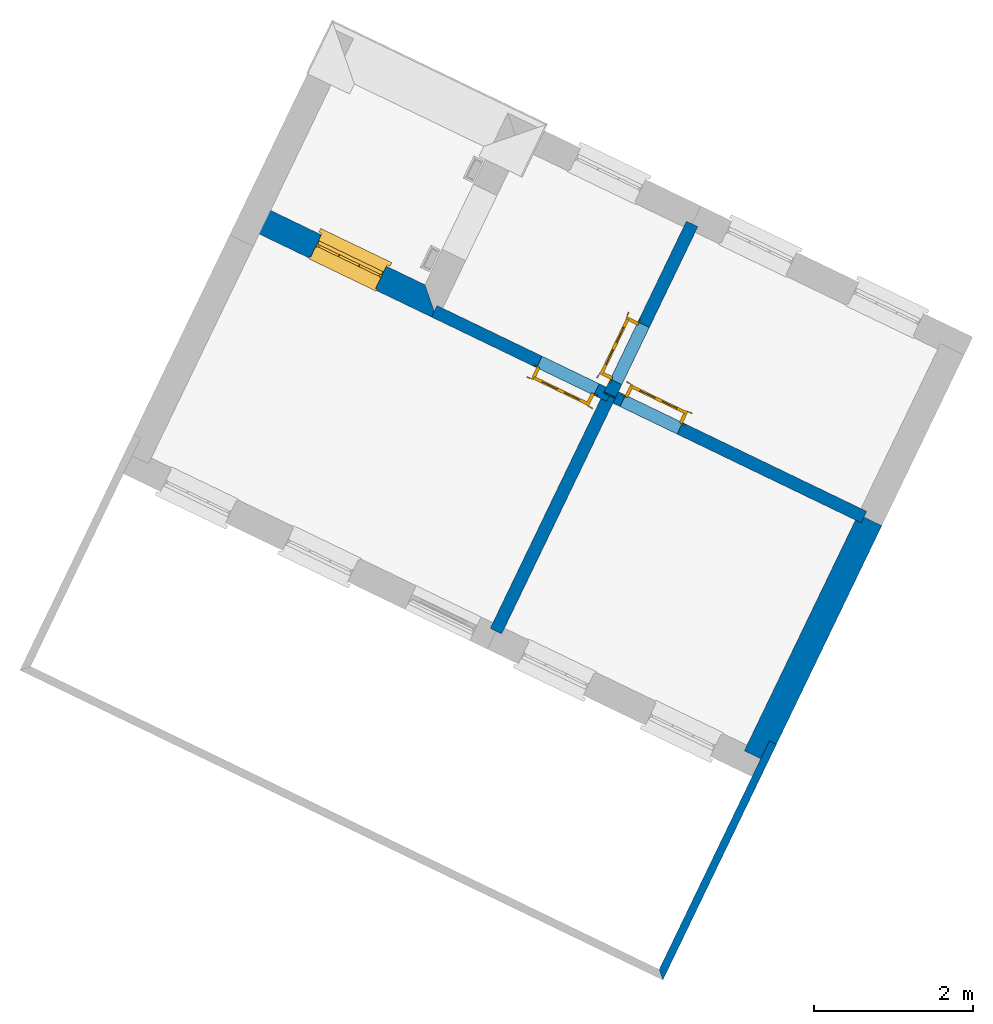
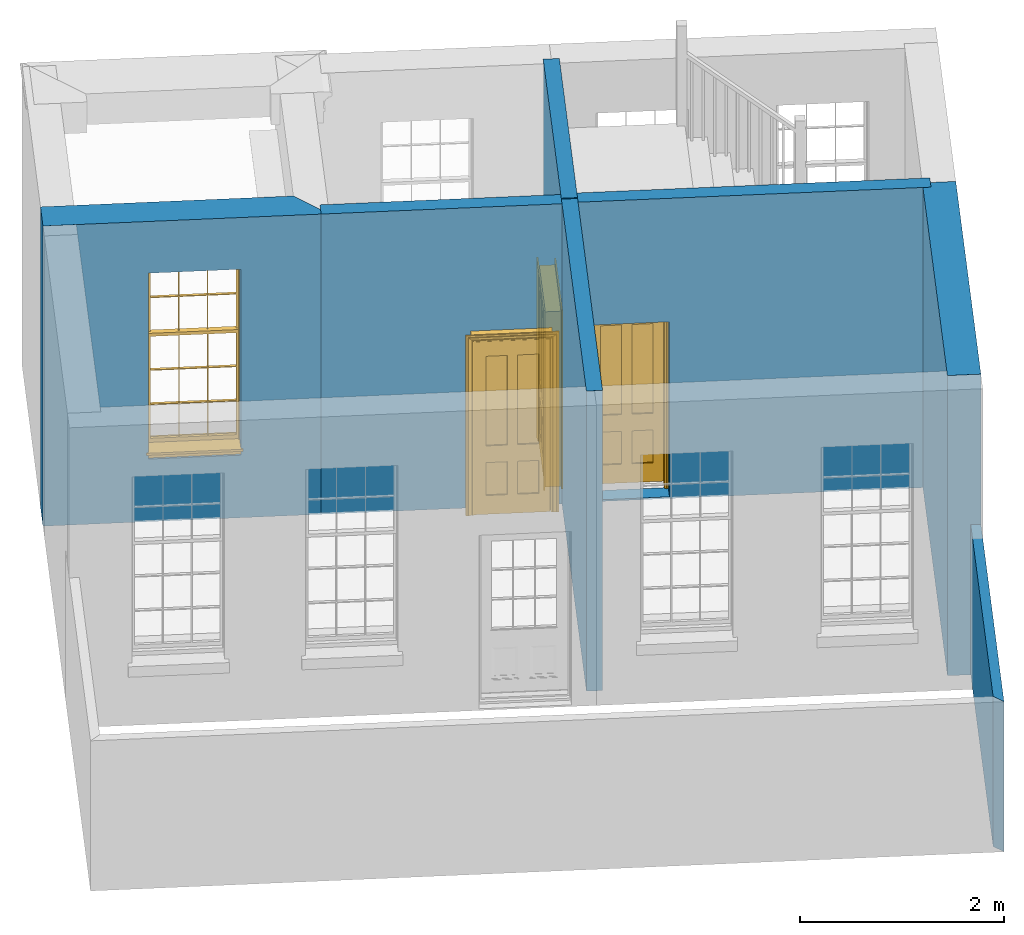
# One storey, part 3 of 6: 8 walls, 3 doors, 1 window, 4 openings.
"""IFC4 building model written with IfcOpenShell, lengths in metres."""

from ifc_helpers import new_model, si_unit, frame, origin, origin_with_axes, place, context, subcontext, project, spatial, polyline, outline, extrude, faceted_brep, source, transform, mapped, material, layer, layer_set, layer_usage, type_object, type_shapes, element, fill, save


model = new_model("IFC4")

# Units and contexts
model_context = context("Model", 3, world=origin_with_axes())
body_context = subcontext(model_context, "Body", "Model", "MODEL_VIEW")
ifc_project = project(units=[si_unit("PLANEANGLEUNIT", "RADIAN"), si_unit("MASSUNIT", "GRAM", prefix="KILO"), si_unit("FORCEUNIT", "NEWTON", prefix="KILO"), si_unit("LENGTHUNIT", "METRE"), si_unit("AREAUNIT", "SQUARE_METRE"), si_unit("VOLUMEUNIT", "CUBIC_METRE")], contexts=[model_context, model_context])

# Sites, building, storey
site_1_placement = place(None, origin_with_axes())
site_1 = spatial("IfcSite", under=ifc_project, at=site_1_placement, Name="Tamar")
site_2_placement = place(site_1_placement, origin_with_axes())
site_2 = spatial("IfcSite", under=site_1, at=site_2_placement, Name="Site plot-1", CompositionType="ELEMENT")
building_placement = place(None, origin_with_axes())
building = spatial("IfcBuilding", under=site_2, at=building_placement, Name="Building plot-1", CompositionType="ELEMENT")
storey_placement = place(None, frame((0.0, 0.0, 26.0), z_axis=(0.0, 0.0, 1.0), x_axis=(1.0, 0.0, 0.0)))
storey = spatial("IfcBuildingStorey", under=building, at=storey_placement, Name="plot-1 0", CompositionType="ELEMENT", Elevation=26.0)

# Wall, opening, window
ifc_material_1 = material(Name="Masonry")
ifc_layer_1 = layer(ifc_material_1, 0.33, ventilated=False)
ifc_layer_set_1 = layer_set([ifc_layer_1], Name="exterior_0.08_0.25")
ifc_layer_usage_1 = layer_usage(ifc_layer_set_1, "AXIS2", "POSITIVE", -0.25)
wall_type_1 = type_object("IfcWallType", Name="exterior_0.08_0.25", PredefinedType="SOLIDWALL", material=ifc_layer_set_1)
wall_1_placement = place(storey_placement, frame((223.048776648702, 296.615213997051, 0.0), z_axis=(0.0, 0.0, 1.0), x_axis=(-0.900856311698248, 0.43411738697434, 0.0)))
wall_1 = element("IfcWall", 1, at=wall_1_placement, inside=storey, type_object=wall_type_1, material=ifc_layer_usage_1, Name="exterior", context=body_context, shape_type="SweptSolid", body=[
    extrude(outline(polyline([(-0.0799999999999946, 0.080000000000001), (0.249999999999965, -0.249999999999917), (2.74084182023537, -0.249999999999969), (2.74084182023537, 0.0800000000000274), (-0.0799999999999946, 0.080000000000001)])), origin_with_axes(), (0.0, 0.0, 1.0), 3.6),
])
opening_1_placement = place(wall_1_placement, frame((0.790420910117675, 0.0, 0.75)))
opening_1 = element("IfcOpeningElement", 2, at=opening_1_placement, cuts=wall_1, Name="My Opening", ObjectType="Opening", context=body_context, shape_type="SweptSolid", body=[
    extrude(outline(polyline([(0.0, -0.269999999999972), (0.910000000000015, -0.270000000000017), (0.910000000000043, 1.09999999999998), (2.85327317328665e-14, 1.10000000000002), (0.0, -0.269999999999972)])), origin_with_axes(), (0.0, 0.0, 1.0), 2.23),
])
window_type = type_object("IfcWindowType", Name="sash_big_taller", PartitioningType="DOUBLE_PANEL_HORIZONTAL", PredefinedType="NOTDEFINED")
shared_shape_1 = source(origin(), body_context, "Body", "Brep", [
    faceted_brep([(0.033125, 0.145, 1.385209), (0.01, 0.145, 1.385209), (0.033125, 0.145, 1.786042), (0.876875, 0.145, 1.385209), (0.876875, 0.145, 1.786042), (0.9, 0.145, 1.385209), (0.876875, 0.145, 1.796042), (0.876875, 0.145, 2.196875), (0.9, 0.145, 2.22), (0.033125, 0.145, 2.196875), (0.033125, 0.145, 1.796042), (0.01, 0.145, 2.22), (0.876875, 0.115, 1.786042), (0.876875, 0.115, 1.385209), (0.9, 0.115, 1.347084), (0.033125, 0.115, 2.196875), (0.01, 0.115, 2.22), (0.033125, 0.115, 1.796042), (0.01, 0.115, 1.347084), (0.033125, 0.115, 1.385209), (0.033125, 0.115, 1.786042), (0.876875, 0.115, 2.196875), (0.876875, 0.115, 1.796042), (0.9, 0.115, 2.22), (0.033125, 0.145, 1.347084), (0.01, 0.145, 1.347084), (0.033125, 0.145, 0.94625), (0.876875, 0.145, 1.347084), (0.876875, 0.145, 0.94625), (0.9, 0.145, 1.347084), (0.876875, 0.145, 0.52625), (0.876875, 0.145, 0.125417), (0.9, 0.145, 0.077167), (0.033125, 0.145, 0.125417), (0.033125, 0.145, 0.52625), (0.01, 0.145, 0.077167), (-0.0425, 0.0, 0.01), (-0.0425, -0.05, 0.001667), (0.0, 0.0, 0.01), (0.9525, 0.0, 0.01), (0.91, 0.0, 0.01), (0.9525, -0.05, 0.001667), (-0.02, 0.33, 0.077167), (0.0, 0.33, 0.077167), (-0.02, 0.36, 0.077167), (0.0, 0.19, 0.077167), (0.01, 0.19, 0.077167), (0.91, 0.19, 0.077167), (0.91, 0.33, 0.077167), (0.9, 0.19, 0.077167), (0.93, 0.33, 0.077167), (0.93, 0.36, 0.077167), (0.01, 0.175, 1.385209), (0.9, 0.175, 1.385209), (0.876875, 0.175, 0.125417), (0.876875, 0.175, 0.52625), (0.9, 0.175, 0.077167), (0.876875, 0.175, 0.94625), (0.876875, 0.175, 1.347084), (0.033125, 0.175, 0.125417), (0.01, 0.175, 0.077167), (0.033125, 0.175, 0.52625), (0.033125, 0.175, 1.347084), (0.033125, 0.175, 0.94625), (-0.02, 0.33, 0.052167), (-0.02, 0.36, 0.052167), (0.93, 0.36, 0.052167), (0.93, 0.33, 0.052167), (0.91, 0.33, 0.052167), (0.0, 0.33, 0.052167), (0.91, 0.1, 0.026667), (0.0, 0.1, 0.026667), (-0.0425, -0.05, -0.123333), (0.9525, -0.05, -0.123333), (-0.0425, 0.0, -0.123333), (0.9525, 0.0, -0.123333), (0.01, 0.19, 2.22), (0.9, 0.19, 2.22), (0.0, 0.19, 2.23), (0.91, 0.19, 2.23), (0.01, 0.1, 0.077167), (0.9, 0.1, 0.077167), (0.592292, 0.145, 0.125417), (0.592292, 0.175, 0.125417), (0.317708, 0.175, 0.125417), (0.317708, 0.145, 0.125417), (0.592292, 0.145, 0.53625), (0.317708, 0.145, 0.53625), (0.317708, 0.145, 0.52625), (0.592292, 0.145, 0.52625), (0.592292, 0.175, 0.53625), (0.317708, 0.175, 0.53625), (0.592292, 0.115, 1.796042), (0.592292, 0.145, 1.796042), (0.317708, 0.145, 1.796042), (0.317708, 0.115, 1.796042), (0.317708, 0.115, 1.786042), (0.592292, 0.115, 1.786042), (0.317708, 0.145, 1.786042), (0.592292, 0.145, 1.786042), (0.602292, 0.115, 1.786042), (0.592292, 0.115, 1.385209), (0.602292, 0.115, 1.385209), (0.602292, 0.145, 1.385209), (0.592292, 0.145, 1.385209), (0.602292, 0.145, 1.786042), (0.876875, 0.145, 0.53625), (0.876875, 0.175, 0.53625), (0.602292, 0.175, 0.53625), (0.602292, 0.145, 0.53625), (0.317708, 0.175, 0.52625), (0.307708, 0.175, 0.125417), (0.307708, 0.175, 0.52625), (0.602292, 0.175, 0.52625), (0.602292, 0.175, 0.125417), (0.592292, 0.175, 0.52625), (0.307708, 0.175, 0.53625), (0.033125, 0.175, 0.53625), (0.317708, 0.175, 1.347084), (0.317708, 0.175, 0.94625), (0.307708, 0.175, 0.94625), (0.307708, 0.175, 1.347084), (0.602292, 0.175, 1.347084), (0.602292, 0.175, 0.94625), (0.592292, 0.175, 0.94625), (0.592292, 0.175, 1.347084), (0.307708, 0.145, 0.52625), (0.307708, 0.145, 0.125417), (0.307708, 0.145, 0.53625), (0.033125, 0.145, 0.53625), (0.307708, 0.145, 1.347084), (0.307708, 0.145, 0.94625), (0.592292, 0.145, 1.347084), (0.592292, 0.145, 0.94625), (0.317708, 0.145, 0.94625), (0.317708, 0.145, 1.347084), (0.602292, 0.145, 0.94625), (0.602292, 0.145, 1.347084), (0.602292, 0.145, 0.52625), (0.602292, 0.145, 0.125417), (0.307708, 0.115, 1.796042), (0.307708, 0.115, 1.786042), (0.307708, 0.115, 1.385209), (0.317708, 0.115, 1.385209), (0.317708, 0.115, 2.196875), (0.307708, 0.115, 2.196875), (0.602292, 0.115, 2.196875), (0.592292, 0.115, 2.196875), (0.602292, 0.115, 1.796042), (0.602292, 0.145, 1.796042), (0.307708, 0.145, 1.796042), (0.307708, 0.145, 2.196875), (0.317708, 0.145, 2.196875), (0.592292, 0.145, 2.196875), (0.602292, 0.145, 2.196875), (0.307708, 0.145, 1.786042), (0.317708, 0.145, 1.385209), (0.307708, 0.145, 1.385209), (0.876875, 0.175, 0.93625), (0.033125, 0.175, 0.93625), (0.033125, 0.145, 0.93625), (0.876875, 0.145, 0.93625), (0.91, 0.1, 2.23), (0.9, 0.1, 2.22), (0.01, 0.1, 2.22), (0.0, 0.1, 2.23), (0.91, 0.0, 0.0), (0.0, 0.0, 0.0), (0.91, 0.33, 0.0), (0.0, 0.33, 0.0), (0.317708, 0.145, 0.93625), (0.592292, 0.145, 0.93625), (0.317708, 0.175, 0.93625), (0.307708, 0.175, 0.93625), (0.602292, 0.175, 0.93625), (0.592292, 0.175, 0.93625), (0.307708, 0.145, 0.93625), (0.602292, 0.145, 0.93625)], [[[0, 1, 2]], [[3, 4, 5]], [[6, 7, 8]], [[9, 10, 11]], [[12, 13, 14]], [[15, 16, 17]], [[18, 19, 20]], [[21, 22, 23]], [[24, 25, 26]], [[27, 28, 29]], [[30, 31, 32]], [[33, 34, 35]], [[14, 27, 29]], [[25, 24, 18]], [[36, 37, 38]], [[39, 40, 41]], [[42, 43, 44]], [[45, 46, 43]], [[47, 48, 49]], [[50, 51, 48]], [[1, 0, 52]], [[5, 53, 3]], [[54, 55, 56]], [[57, 58, 53]], [[59, 60, 61]], [[62, 63, 52]], [[48, 43, 46, 49]], [[51, 44, 43, 48]], [[64, 42, 44, 65]], [[65, 44, 51, 66]], [[66, 51, 50, 67]], [[65, 66, 68, 69]], [[60, 56, 49, 46]], [[70, 71, 38, 40]], [[37, 41, 40, 38]], [[37, 72, 73, 41]], [[74, 75, 73, 72]], [[8, 11, 76, 77]], [[76, 78, 79, 77]], [[32, 35, 80, 81]], [[81, 80, 71, 70]], [[82, 83, 84, 85]], [[86, 87, 88, 89]], [[86, 90, 91, 87]], [[92, 93, 94, 95]], [[92, 95, 96, 97]], [[96, 98, 99, 97]], [[100, 97, 101, 102]], [[103, 104, 99, 105]], [[97, 99, 104, 101]], [[102, 103, 105, 100]], [[106, 107, 108, 109]], [[110, 84, 111, 112]], [[113, 114, 83, 115]], [[116, 112, 61, 117]], [[90, 115, 110, 91]], [[118, 119, 120, 121]], [[122, 123, 124, 125]], [[113, 108, 107, 55]], [[126, 112, 111, 127]], [[34, 61, 112, 126]], [[89, 115, 83, 82]], [[88, 110, 115, 89]], [[85, 84, 110, 88]], [[128, 116, 117, 129]], [[130, 121, 120, 131]], [[132, 125, 124, 133]], [[134, 119, 118, 135]], [[136, 123, 122, 137]], [[138, 113, 55, 30]], [[139, 114, 113, 138]], [[138, 30, 106, 109]], [[88, 126, 127, 85]], [[138, 89, 82, 139]], [[137, 132, 133, 136]], [[128, 129, 34, 126]], [[135, 130, 131, 134]], [[140, 17, 20, 141]], [[96, 141, 142, 143]], [[144, 145, 140, 95]], [[146, 147, 92, 148]], [[100, 12, 22, 148]], [[149, 6, 4, 105]], [[94, 150, 151, 152]], [[149, 93, 153, 154]], [[99, 98, 94, 93]], [[155, 2, 10, 150]], [[156, 157, 155, 98]], [[141, 155, 157, 142]], [[20, 2, 155, 141]], [[143, 156, 98, 96]], [[140, 150, 10, 17]], [[145, 151, 150, 140]], [[147, 153, 93, 92]], [[95, 94, 152, 144]], [[22, 6, 149, 148]], [[148, 149, 154, 146]], [[100, 105, 4, 12]], [[109, 86, 89, 138]], [[108, 113, 115, 90]], [[91, 110, 112, 116]], [[87, 128, 126, 88]], [[97, 100, 148, 92]], [[141, 96, 95, 140]], [[98, 155, 150, 94]], [[105, 99, 93, 149]], [[143, 101, 104, 156]], [[135, 118, 125, 132]], [[144, 152, 153, 147]], [[127, 111, 59, 33]], [[15, 9, 151, 145]], [[146, 154, 7, 21]], [[31, 54, 114, 139]], [[36, 74, 72, 37]], [[39, 41, 73, 75]], [[18, 14, 101, 143]], [[23, 16, 144, 147]], [[83, 56, 60, 84]], [[52, 53, 125, 118]], [[53, 52, 156, 104]], [[11, 8, 153, 152]], [[14, 18, 135, 132]], [[2, 1, 11, 10]], [[8, 5, 4, 6]], [[57, 53, 56, 158]], [[60, 52, 63, 159]], [[26, 25, 35, 160]], [[32, 29, 28, 161]], [[14, 23, 22, 12]], [[18, 20, 17, 16]], [[19, 0, 2, 20]], [[17, 10, 9, 15]], [[12, 4, 3, 13]], [[21, 7, 6, 22]], [[27, 58, 57, 28]], [[30, 55, 54, 31]], [[33, 59, 61, 34]], [[26, 63, 62, 24]], [[5, 8, 77, 53]], [[76, 11, 1, 52]], [[46, 45, 78, 76]], [[49, 77, 79, 47]], [[70, 162, 163, 81]], [[71, 80, 164, 165]], [[19, 142, 157, 0]], [[102, 13, 3, 103]], [[121, 130, 24, 62]], [[29, 32, 81, 14]], [[80, 35, 25, 18]], [[60, 46, 76, 52]], [[77, 49, 56, 53]], [[23, 14, 81, 163]], [[16, 164, 80, 18]], [[35, 85, 127]], [[127, 33, 35]], [[139, 82, 32]], [[32, 31, 139]], [[32, 82, 85, 35]], [[102, 101, 14]], [[14, 13, 102]], [[18, 143, 142]], [[142, 19, 18]], [[146, 21, 23]], [[23, 147, 146]], [[16, 15, 145]], [[145, 144, 16]], [[11, 152, 151]], [[151, 9, 11]], [[154, 153, 8]], [[8, 7, 154]], [[23, 163, 164, 16]], [[162, 165, 164, 163]], [[52, 118, 121]], [[121, 62, 52]], [[125, 53, 122]], [[58, 122, 53]], [[27, 137, 122, 58]], [[56, 83, 114]], [[114, 54, 56]], [[111, 84, 60]], [[60, 59, 111]], [[137, 27, 14]], [[14, 132, 137]], [[130, 135, 18]], [[18, 24, 130]], [[157, 156, 52]], [[52, 0, 157]], [[103, 3, 53]], [[53, 104, 103]], [[79, 78, 165, 162]], [[78, 45, 71, 165]], [[162, 70, 47, 79]], [[166, 75, 74, 167]], [[68, 66, 67]], [[48, 68, 67, 50]], [[69, 64, 65]], [[42, 64, 69, 43]], [[69, 68, 168, 169]], [[70, 68, 48, 47]], [[166, 168, 68, 70]], [[43, 69, 71, 45]], [[69, 169, 167, 71]], [[168, 166, 167, 169]], [[38, 167, 74, 36]], [[71, 167, 38]], [[39, 75, 166, 40]], [[40, 166, 70]], [[133, 134, 170, 171]], [[133, 124, 119, 134]], [[28, 57, 123, 136]], [[172, 91, 116, 173]], [[174, 108, 90, 175]], [[120, 173, 159, 63]], [[124, 175, 172, 119]], [[174, 123, 57, 158]], [[176, 173, 116, 128]], [[160, 159, 173, 176]], [[171, 175, 90, 86]], [[170, 172, 175, 171]], [[87, 91, 172, 170]], [[131, 120, 63, 26]], [[177, 174, 158, 161]], [[109, 108, 174, 177]], [[177, 161, 28, 136]], [[170, 176, 128, 87]], [[177, 171, 86, 109]], [[131, 26, 160, 176]], [[136, 133, 171, 177]], [[123, 174, 175, 124]], [[119, 172, 173, 120]], [[134, 131, 176, 170]], [[129, 117, 159, 160]], [[161, 158, 107, 106]], [[35, 34, 129]], [[35, 129, 160]], [[32, 106, 30]], [[32, 161, 106]], [[56, 55, 107]], [[56, 107, 158]], [[60, 117, 61]], [[60, 159, 117]]]),
])
type_shapes(window_type, [shared_shape_1])
window_placement = place(storey_placement, frame((222.453932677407, 297.20158066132, 0.75), z_axis=(0.0, 0.0, 1.0), x_axis=(-0.819779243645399, 0.395046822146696, 0.0)))
window = element("IfcWindow", 3, at=window_placement, inside=storey, type_object=window_type, Name="bedroom outside window", OverallHeight=2.23, OverallWidth=0.91, context=body_context, shape_type="MappedRepresentation", body=[
    mapped(shared_shape_1, transform((0.0, 0.0, 0.0), scale=1.0)),
])
fill(opening_1, window)

# Wall
ifc_material_2 = material(Name="Masonry")
ifc_layer_2 = layer(ifc_material_2, 0.33, ventilated=False)
ifc_layer_set_2 = layer_set([ifc_layer_2], Name="party_0.08_0.25")
ifc_layer_usage_2 = layer_usage(ifc_layer_set_2, "AXIS2", "POSITIVE", -0.25)
wall_type_2 = type_object("IfcWallType", Name="party_0.08_0.25", PredefinedType="SOLIDWALL", material=ifc_layer_set_2)
wall_2_placement = place(storey_placement, frame((227.031140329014, 291.036951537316, 0.0), z_axis=(0.0, 0.0, 1.0), x_axis=(0.434117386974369, 0.900856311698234, 0.0)))
element("IfcWall", 4, at=wall_2_placement, inside=storey, type_object=wall_type_2, material=ifc_layer_usage_2, Name="party", context=body_context, shape_type="SweptSolid", body=[
    extrude(outline(polyline([(2.62594526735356e-14, 0.0800000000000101), (1.2227761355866e-14, -0.249999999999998), (3.31081416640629, -0.249999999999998), (3.3108141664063, 0.0800000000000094), (2.62594526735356e-14, 0.0800000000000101)])), origin_with_axes(), (0.0, 0.0, 1.0), 3.6),
])

# Wall, opening, door
ifc_material_3 = material(Name="Masonry")
ifc_layer_3 = layer(ifc_material_3, 0.16, ventilated=False)
ifc_layer_set_3 = layer_set([ifc_layer_3], Name="interior_0.08_0.08")
ifc_layer_usage_3 = layer_usage(ifc_layer_set_3, "AXIS2", "POSITIVE", -0.08)
wall_type_3 = type_object("IfcWallType", Name="interior_0.08_0.08", PredefinedType="SOLIDWALL", material=ifc_layer_set_3)
wall_3_placement = place(storey_placement, frame((225.264320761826, 295.563557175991, 0.0), z_axis=(0.0, 0.0, 1.0), x_axis=(0.434117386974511, 0.900856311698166, 0.0)))
wall_3 = element("IfcWall", 5, at=wall_3_placement, inside=storey, type_object=wall_type_3, material=ifc_layer_usage_3, Name="interior", context=body_context, shape_type="SweptSolid", body=[
    extrude(outline(polyline([(1.36650826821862e-14, 0.0800000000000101), (-1.36552855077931e-14, -0.0800000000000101), (2.39012069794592, -0.0800000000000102), (2.39012069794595, 0.0800000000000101), (1.36650826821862e-14, 0.0800000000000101)])), origin_with_axes(), (0.0, 0.0, 1.0), 3.6),
])
opening_2_placement = place(wall_3_placement, frame((0.179999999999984, 0.0, 0.0199999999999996)))
opening_2 = element("IfcOpeningElement", 6, at=opening_2_placement, cuts=wall_3, Name="My Opening", ObjectType="Opening", context=body_context, shape_type="SweptSolid", body=[
    extrude(outline(polyline([(0.0, -0.100000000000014), (0.800000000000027, -0.0999999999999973), (0.800000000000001, 1.09999999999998), (-2.6256774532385e-14, 1.09999999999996), (0.0, -0.100000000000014)])), origin_with_axes(), (0.0, 0.0, 1.0), 2.1),
])
door_type = type_object("IfcDoorType", Name="door_inside", OperationType="SINGLE_SWING_LEFT", PredefinedType="NOTDEFINED")
shared_shape_2 = source(origin(), body_context, "Body", "Brep", [
    faceted_brep([(0.773, 0.33, 1.895), (0.66, 0.33, 1.895), (0.66, 0.33, 2.073), (0.773, 0.33, 2.073), (0.773, 0.33, 0.82), (0.66, 0.33, 0.82), (0.45, 0.33, 1.895), (0.45, 0.33, 2.073), (0.773, 0.33, 0.62), (0.66, 0.33, 0.62), (0.66, 0.315, 0.82), (0.66, 0.315, 1.895), (0.45, 0.315, 1.895), (0.35, 0.33, 1.895), (0.35, 0.33, 2.073), (0.773, 0.33, 0.225), (0.66, 0.33, 0.225), (0.45, 0.33, 0.62), (0.45, 0.33, 0.82), (0.45, 0.315, 0.82), (0.35, 0.33, 0.82), (0.14, 0.33, 2.073), (0.14, 0.33, 1.895), (0.773, 0.33, 0.0), (0.66, 0.33, 0.0), (0.66, 0.315, 0.225), (0.66, 0.315, 0.62), (0.45, 0.315, 0.62), (0.35, 0.33, 0.62), (0.35, 0.315, 0.82), (0.35, 0.315, 1.895), (0.14, 0.315, 1.895), (0.027, 0.33, 2.073), (0.027, 0.33, 1.895), (0.773, 0.292, 0.0), (0.66, 0.292, 0.0), (0.45, 0.33, 0.0), (0.45, 0.33, 0.225), (0.45, 0.315, 0.225), (0.35, 0.33, 0.225), (0.14, 0.33, 0.82), (0.14, 0.33, 0.62), (0.14, 0.315, 0.82), (0.027, 0.33, 0.82), (0.773, 0.292, 0.225), (0.66, 0.292, 0.225), (0.45, 0.292, 0.0), (0.35, 0.33, 0.0), (0.35, 0.315, 0.225), (0.35, 0.315, 0.62), (0.14, 0.315, 0.62), (0.027, 0.33, 0.62), (0.773, 0.292, 0.62), (0.66, 0.292, 0.62), (0.45, 0.292, 0.225), (0.35, 0.292, 0.0), (0.14, 0.33, 0.225), (0.14, 0.33, 0.0), (0.14, 0.315, 0.225), (0.027, 0.33, 0.225), (0.773, 0.292, 0.82), (0.66, 0.292, 0.82), (0.66, 0.307, 0.62), (0.66, 0.307, 0.225), (0.45, 0.307, 0.225), (0.35, 0.292, 0.225), (0.14, 0.292, 0.0), (0.027, 0.33, 0.0), (0.773, 0.292, 1.895), (0.66, 0.292, 1.895), (0.45, 0.292, 0.62), (0.45, 0.292, 0.82), (0.45, 0.307, 0.62), (0.35, 0.292, 0.62), (0.14, 0.292, 0.225), (0.027, 0.292, 0.0), (0.773, 0.292, 2.073), (0.66, 0.292, 2.073), (0.66, 0.307, 1.895), (0.66, 0.307, 0.82), (0.45, 0.307, 0.82), (0.35, 0.292, 0.82), (0.35, 0.307, 0.62), (0.35, 0.307, 0.225), (0.14, 0.307, 0.225), (0.027, 0.292, 0.225), (0.45, 0.292, 1.895), (0.45, 0.292, 2.073), (0.45, 0.307, 1.895), (0.35, 0.292, 1.895), (0.14, 0.292, 0.82), (0.14, 0.292, 0.62), (0.14, 0.307, 0.62), (0.027, 0.292, 0.62), (0.35, 0.292, 2.073), (0.35, 0.307, 1.895), (0.35, 0.307, 0.82), (0.14, 0.307, 0.82), (0.027, 0.292, 0.82), (0.14, 0.292, 2.073), (0.14, 0.292, 1.895), (0.14, 0.307, 1.895), (0.027, 0.292, 1.895), (0.027, 0.292, 2.073), (0.02, 0.335, 0.0), (0.005, 0.34, 0.0), (0.005, 0.34, 2.095), (0.02, 0.335, 2.08), (0.02, 0.33, 0.0), (0.0, 0.335, 0.0), (0.0, 0.335, 2.1), (0.795, 0.34, 2.095), (0.78, 0.335, 2.08), (0.02, 0.33, 2.08), (0.0, 0.33, 0.0), (-0.032, 0.345, 0.0), (-0.032, 0.345, 2.132), (0.8, 0.335, 2.1), (0.795, 0.34, 0.0), (0.78, 0.335, 0.0), (0.78, 0.33, 2.08), (0.04, 0.29, 0.0), (0.025, 0.29, 0.0), (0.025, 0.29, 2.075), (0.04, 0.29, 2.06), (-0.04, 0.34, 0.0), (-0.04, 0.34, 2.14), (0.832, 0.345, 2.132), (0.8, 0.335, 0.0), (0.78, 0.33, 0.0), (0.8, 0.33, 0.0), (0.86, 0.33, 0.0), (0.86, 0.33, 2.16), (0.8, 0.33, 2.1), (-0.06, 0.33, 2.16), (0.0, 0.33, 2.1), (-0.06, 0.33, 0.0), (-0.04, 0.345, 0.0), (-0.04, 0.345, 2.14), (0.84, 0.34, 2.14), (0.832, 0.345, 0.0), (0.84, 0.34, 0.0), (0.86, 0.345, 0.0), (0.86, 0.345, 2.16), (-0.06, 0.345, 2.16), (-0.06, 0.345, 0.0), (0.84, 0.345, 0.0), (0.84, 0.345, 2.14), (-0.025, 0.155, 0.0), (-0.025, 0.16, 0.0), (-0.025, 0.16, 2.125), (-0.025, 0.155, 2.125), (-0.017, 0.155, 0.0), (-0.017, 0.155, 2.117), (0.825, 0.16, 2.125), (0.825, 0.155, 2.125), (0.825, 0.155, 0.0), (0.845, 0.155, 0.0), (-0.045, 0.155, 2.145), (-0.045, 0.155, 0.0), (0.845, 0.155, 2.145), (0.015, 0.165, 0.0), (0.015, 0.165, 2.085), (0.817, 0.155, 2.117), (0.825, 0.16, 0.0), (0.845, 0.17, 0.0), (0.845, 0.17, 2.145), (-0.045, 0.17, 2.145), (-0.045, 0.17, 0.0), (0.02, 0.16, 0.0), (0.02, 0.16, 2.08), (0.785, 0.165, 2.085), (0.817, 0.155, 0.0), (0.8, 0.17, 0.0), (0.8, 0.17, 2.1), (0.0, 0.17, 2.1), (0.0, 0.17, 0.0), (0.035, 0.165, 0.0), (0.035, 0.165, 2.065), (0.78, 0.16, 2.08), (0.785, 0.165, 0.0), (0.775, 0.29, 2.075), (0.76, 0.29, 2.06), (0.035, 0.17, 2.065), (0.035, 0.17, 0.0), (0.765, 0.165, 2.065), (0.78, 0.16, 0.0), (0.765, 0.17, 0.0), (0.765, 0.17, 2.065), (0.765, 0.165, 0.0), (0.04, 0.17, 2.06), (0.04, 0.17, 0.0), (0.76, 0.17, 2.06), (0.76, 0.17, 0.0), (0.76, 0.29, 0.0), (0.775, 0.29, 0.0), (0.025, 0.33, 0.0), (0.025, 0.33, 2.075), (0.775, 0.33, 0.0), (0.775, 0.33, 2.075)], [[[0, 1, 2, 3]], [[1, 0, 4, 5]], [[1, 6, 7, 2]], [[8, 9, 5, 4]], [[1, 5, 10, 11]], [[6, 1, 11, 12]], [[6, 13, 14, 7]], [[15, 16, 9, 8]], [[9, 17, 18, 5]], [[5, 18, 19, 10]], [[10, 19, 12, 11]], [[18, 6, 12, 19]], [[18, 20, 13, 6]], [[21, 14, 13, 22]], [[23, 24, 16, 15]], [[9, 16, 25, 26]], [[17, 9, 26, 27]], [[17, 28, 20, 18]], [[13, 20, 29, 30]], [[22, 13, 30, 31]], [[32, 21, 22, 33]], [[34, 35, 24, 23]], [[24, 36, 37, 16]], [[16, 37, 38, 25]], [[25, 38, 27, 26]], [[37, 17, 27, 38]], [[37, 39, 28, 17]], [[40, 20, 28, 41]], [[20, 40, 42, 29]], [[31, 30, 29, 42]], [[40, 22, 31, 42]], [[33, 22, 40, 43]], [[35, 34, 44, 45]], [[35, 46, 36, 24]], [[36, 47, 39, 37]], [[28, 39, 48, 49]], [[41, 28, 49, 50]], [[43, 40, 41, 51]], [[45, 44, 52, 53]], [[46, 35, 45, 54]], [[46, 55, 47, 36]], [[56, 39, 47, 57]], [[39, 56, 58, 48]], [[50, 49, 48, 58]], [[56, 41, 50, 58]], [[51, 41, 56, 59]], [[53, 52, 60, 61]], [[45, 53, 62, 63]], [[54, 45, 63, 64]], [[55, 46, 54, 65]], [[55, 66, 57, 47]], [[59, 56, 57, 67]], [[61, 60, 68, 69]], [[70, 53, 61, 71]], [[53, 70, 72, 62]], [[72, 64, 63, 62]], [[70, 54, 64, 72]], [[65, 54, 70, 73]], [[65, 74, 66, 55]], [[67, 57, 66, 75]], [[69, 68, 76, 77]], [[61, 69, 78, 79]], [[71, 61, 79, 80]], [[73, 70, 71, 81]], [[65, 73, 82, 83]], [[74, 65, 83, 84]], [[74, 85, 75, 66]], [[86, 69, 77, 87]], [[69, 86, 88, 78]], [[88, 80, 79, 78]], [[86, 71, 80, 88]], [[81, 71, 86, 89]], [[73, 81, 90, 91]], [[73, 91, 92, 82]], [[83, 82, 92, 84]], [[91, 74, 84, 92]], [[91, 93, 85, 74]], [[89, 86, 87, 94]], [[81, 89, 95, 96]], [[90, 81, 96, 97]], [[90, 98, 93, 91]], [[94, 99, 100, 89]], [[89, 100, 101, 95]], [[101, 97, 96, 95]], [[100, 90, 97, 101]], [[100, 102, 98, 90]], [[99, 103, 102, 100]], [[32, 103, 99, 21]], [[102, 103, 32, 33]], [[98, 102, 33, 43]], [[21, 99, 94, 14]], [[94, 87, 7, 14]], [[7, 87, 77, 2]], [[76, 3, 2, 77]], [[43, 51, 93, 98]], [[51, 59, 85, 93]], [[67, 75, 85, 59]], [[34, 23, 15, 44]], [[44, 15, 8, 52]], [[52, 8, 4, 60]], [[0, 68, 60, 4]], [[0, 3, 76, 68]], [[104, 105, 106, 107]], [[104, 108, 109, 105]], [[105, 109, 110, 106]], [[107, 106, 111, 112]], [[107, 113, 108, 104]], [[114, 109, 108]], [[109, 115, 116, 110]], [[106, 110, 117, 111]], [[112, 111, 118, 119]], [[113, 107, 112, 120]], [[121, 122, 123, 124]], [[115, 109, 114, 125]], [[115, 125, 126, 116]], [[110, 116, 127, 117]], [[111, 117, 128, 118]], [[118, 128, 129, 119]], [[120, 112, 119, 129]], [[130, 129, 128]], [[130, 131, 132, 133]], [[133, 132, 134, 135]], [[135, 134, 136, 114]], [[136, 125, 114]], [[125, 137, 138, 126]], [[116, 126, 139, 127]], [[117, 127, 140, 128]], [[141, 130, 128, 140]], [[131, 130, 141]], [[131, 142, 143, 132]], [[132, 143, 144, 134]], [[134, 144, 145, 136]], [[137, 125, 136, 145]], [[143, 142, 146]], [[143, 146, 147]], [[137, 145, 144]], [[143, 147, 138]], [[138, 137, 144]], [[143, 138, 144]], [[126, 138, 147, 139]], [[127, 139, 141, 140]], [[142, 131, 141, 146]], [[139, 147, 146, 141]], [[148, 149, 150, 151]], [[149, 152, 153, 150]], [[151, 150, 154, 155]], [[155, 156, 157]], [[158, 159, 148]], [[158, 148, 151]], [[155, 157, 160]], [[158, 151, 155]], [[155, 160, 158]], [[152, 161, 162, 153]], [[150, 153, 163, 154]], [[155, 154, 164, 156]], [[156, 164, 165, 157]], [[157, 165, 166, 160]], [[160, 166, 167, 158]], [[158, 167, 168, 159]], [[161, 169, 170, 162]], [[153, 162, 171, 163]], [[154, 163, 172, 164]], [[165, 164, 173]], [[165, 173, 174, 166]], [[166, 174, 175, 167]], [[167, 175, 176, 168]], [[169, 177, 178, 170]], [[162, 170, 179, 171]], [[163, 171, 180, 172]], [[172, 180, 173, 164]], [[124, 123, 181, 182]], [[183, 178, 177, 184]], [[170, 178, 185, 179]], [[171, 179, 186, 180]], [[187, 173, 180]], [[185, 188, 187, 189]], [[188, 185, 178, 183]], [[179, 185, 189, 186]], [[189, 187, 180, 186]], [[190, 183, 184, 191]], [[192, 188, 183, 190]], [[191, 184, 122, 121]], [[124, 190, 191, 121]], [[193, 187, 188, 192]], [[182, 192, 190, 124]], [[184, 176, 122]], [[194, 195, 187, 193]], [[192, 182, 194, 193]], [[161, 176, 184]], [[114, 108, 122, 176]], [[173, 187, 195]], [[152, 149, 176, 161]], [[169, 161, 184, 177]], [[196, 122, 108]], [[176, 175, 135, 114]], [[173, 195, 129, 130]], [[176, 149, 168]], [[123, 122, 196, 197]], [[196, 108, 113, 197]], [[175, 174, 133, 135]], [[198, 129, 195]], [[133, 174, 173, 130]], [[159, 168, 149, 148]], [[181, 123, 197, 199]], [[197, 113, 120, 199]], [[199, 120, 129, 198]], [[195, 181, 199, 198]], [[195, 194, 182, 181]]]),
])
type_shapes(door_type, [shared_shape_2])
door_1_placement = place(storey_placement, frame((225.432547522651, 295.682299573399, 0.0199999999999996), z_axis=(0.0, 0.0, 1.0), x_axis=(0.347293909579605, 0.720685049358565, 0.0)))
door_1 = element("IfcDoor", 7, at=door_1_placement, inside=storey, type_object=door_type, Name="circulation inside door", OverallHeight=2.1, OverallWidth=0.8, context=body_context, shape_type="MappedRepresentation", body=[
    mapped(shared_shape_2, transform((0.0, 0.0, 0.0), scale=1.0)),
])
fill(opening_2, door_1)

# Wall
wall_4_placement = place(storey_placement, frame((225.264320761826, 295.563557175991, 0.0), z_axis=(0.0, 0.0, 1.0), x_axis=(-0.434117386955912, -0.900856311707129, 0.0)))
element("IfcWall", 8, at=wall_4_placement, inside=storey, type_object=wall_type_3, material=ifc_layer_usage_3, Name="interior", context=body_context, shape_type="SweptSolid", body=[
    extrude(outline(polyline([(2.54937884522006e-14, 0.0800000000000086), (-2.55035856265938e-14, -0.0800000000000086), (0.0144145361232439, -0.0800000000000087), (0.014414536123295, 0.0800000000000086), (2.54937884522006e-14, 0.0800000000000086)])), origin_with_axes(), (0.0, 0.0, 1.0), 3.6),
])

# Wall, opening, door
wall_5_placement = place(storey_placement, frame((225.25806316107, 295.550571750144, 0.0), z_axis=(0.0, 0.0, 1.0), x_axis=(-0.900856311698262, 0.434117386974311, 0.0)))
wall_5 = element("IfcWall", 9, at=wall_5_placement, inside=storey, type_object=wall_type_3, material=ifc_layer_usage_3, Name="interior", context=body_context, shape_type="SweptSolid", body=[
    extrude(outline(polyline([(-6.56762171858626e-15, 0.0800000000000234), (6.57741889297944e-15, -0.0800000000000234), (2.45242940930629, -0.0800000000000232), (2.45242940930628, 0.0800000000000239), (-6.56762171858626e-15, 0.0800000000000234)])), origin_with_axes(), (0.0, 0.0, 1.0), 3.6),
])
opening_3_placement = place(wall_5_placement, frame((0.179999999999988, 0.0, 0.0199999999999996)))
opening_3 = element("IfcOpeningElement", 10, at=opening_3_placement, cuts=wall_5, Name="My Opening", ObjectType="Opening", context=body_context, shape_type="SweptSolid", body=[
    extrude(outline(polyline([(0.0, -0.0999999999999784), (0.799999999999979, -0.0999999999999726), (0.800000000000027, 1.10000000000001), (4.81559236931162e-14, 1.1), (0.0, -0.0999999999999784)])), origin_with_axes(), (0.0, 0.0, 1.0), 2.1),
])
door_2_placement = place(storey_placement, frame((225.139320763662, 295.718798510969, 0.0199999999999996), z_axis=(0.0, 0.0, 1.0), x_axis=(-0.720685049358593, 0.347293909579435, 0.0)))
door_2 = element("IfcDoor", 11, at=door_2_placement, inside=storey, type_object=door_type, Name="bedroom inside door", OverallHeight=2.1, OverallWidth=0.8, context=body_context, shape_type="MappedRepresentation", body=[
    mapped(shared_shape_2, transform((0.0, 0.0, 0.0), scale=1.0)),
])
fill(opening_3, door_2)

# Wall
wall_6_placement = place(storey_placement, frame((225.25806316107, 295.550571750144, 0.0), z_axis=(0.0, 0.0, 1.0), x_axis=(-0.434117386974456, -0.900856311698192, 0.0)))
element("IfcWall", 12, at=wall_6_placement, inside=storey, type_object=wall_type_3, material=ifc_layer_usage_3, Name="interior", context=body_context, shape_type="SweptSolid", body=[
    extrude(outline(polyline([(1.84594153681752e-14, 0.0800000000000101), (-1.84692125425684e-14, -0.0800000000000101), (3.29639963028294, -0.0800000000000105), (3.29639963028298, 0.0800000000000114), (1.84594153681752e-14, 0.0800000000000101)])), origin_with_axes(), (0.0, 0.0, 1.0), 3.6),
])

# Wall, opening, door
wall_7_placement = place(storey_placement, frame((225.264320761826, 295.563557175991, 0.0), z_axis=(0.0, 0.0, 1.0), x_axis=(0.900856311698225, -0.434117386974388, 0.0)))
wall_7 = element("IfcWall", 13, at=wall_7_placement, inside=storey, type_object=wall_type_3, material=ifc_layer_usage_3, Name="interior", context=body_context, shape_type="SweptSolid", body=[
    extrude(outline(polyline([(-1.33888319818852e-14, 0.0800000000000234), (1.3343507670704e-14, -0.0800000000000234), (3.55672877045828, -0.0800000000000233), (3.55672877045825, 0.0800000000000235), (-1.33888319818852e-14, 0.0800000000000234)])), origin_with_axes(), (0.0, 0.0, 1.0), 3.6),
])
opening_4_placement = place(wall_7_placement, frame((0.179999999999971, 0.0, 0.0199999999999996)))
opening_4 = element("IfcOpeningElement", 14, at=opening_4_placement, cuts=wall_7, Name="My Opening", ObjectType="Opening", context=body_context, shape_type="SweptSolid", body=[
    extrude(outline(polyline([(0.0, -0.0999999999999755), (0.800000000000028, -0.100000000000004), (0.800000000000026, 1.1), (-2.44249065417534e-15, 1.10000000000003), (0.0, -0.0999999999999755)])), origin_with_axes(), (0.0, 0.0, 1.0), 2.1),
])
door_3_placement = place(storey_placement, frame((225.383063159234, 295.395330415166, 0.0199999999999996), z_axis=(0.0, 0.0, 1.0), x_axis=(0.720685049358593, -0.347293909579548, 0.0)))
door_3 = element("IfcDoor", 15, at=door_3_placement, inside=storey, type_object=door_type, Name="toilet inside door", OverallHeight=2.1, OverallWidth=0.8, context=body_context, shape_type="MappedRepresentation", body=[
    mapped(shared_shape_2, transform((0.0, 0.0, 0.0), scale=1.0)),
])
fill(opening_4, door_3)

# Wall
ifc_material_4 = material(Name="Masonry")
ifc_layer_4 = layer(ifc_material_4, 0.1, ventilated=False)
ifc_layer_set_4 = layer_set([ifc_layer_4], Name="fence_-0.15_0.25")
ifc_layer_usage_4 = layer_usage(ifc_layer_set_4, "AXIS2", "POSITIVE", -0.25)
wall_type_4 = type_object("IfcWallType", Name="fence_-0.15_0.25", PredefinedType="SOLIDWALL", material=ifc_layer_set_4)
wall_8_placement = place(storey_placement, frame((225.816017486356, 288.515396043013, 0.0), z_axis=(0.0, 0.0, 1.0), x_axis=(0.434117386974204, 0.900856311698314, 0.0)))
element("IfcWall", 16, at=wall_8_placement, inside=storey, type_object=wall_type_4, material=ifc_layer_usage_4, Name="fence", context=body_context, shape_type="SweptSolid", body=[
    extrude(outline(polyline([(-0.149999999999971, -0.150000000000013), (-0.250000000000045, -0.250000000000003), (3.04906513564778, -0.249999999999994), (3.04906513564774, -0.15), (-0.149999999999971, -0.150000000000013)])), origin_with_axes(), (0.0, 0.0, 1.0), 1.8),
])

save(model, "model.ifc")
